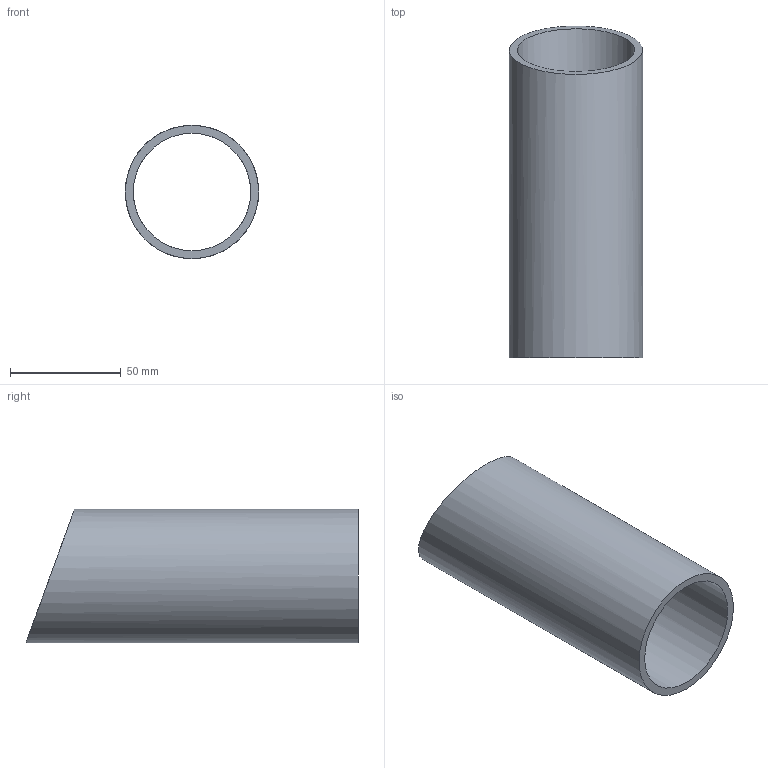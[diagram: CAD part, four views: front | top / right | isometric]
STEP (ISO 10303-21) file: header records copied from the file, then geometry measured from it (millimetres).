
FILE_DESCRIPTION (( 'STEP AP214' ), '1' );
FILE_NAME ('MONO_038-p221_01.STEP', '2025-09-30T07:30:17', ( '' ), ( '' ), 'SwSTEP 2.0', 'SolidWorks 2024', '' );
FILE_SCHEMA (( 'AUTOMOTIVE_DESIGN' ));
Length unit declared in the file: millimetre
Products named in the file (1): MONO_038-p221_01
Bounding box: 60.3 x 150 x 60.3 mm (x, y, z)
Volume: 89152.2 mm3; surface area: 50852.7 mm2
Topology: 1 solids, 1 shells, 4 faces, 8 edges, 6 vertices
Faces by surface type: cylinder 2, plane 2
Full cylindrical faces by diameter (mm): 53.1 x1, 60.3 x1
Entity records: 115 total; most frequent: CARTESIAN_POINT 25, DIRECTION 14, EDGE_LOOP 8, ORIENTED_EDGE 8, AXIS2_PLACEMENT_3D 7, FACE_OUTER_BOUND 6, ADVANCED_FACE 4, VERTEX_POINT 4
